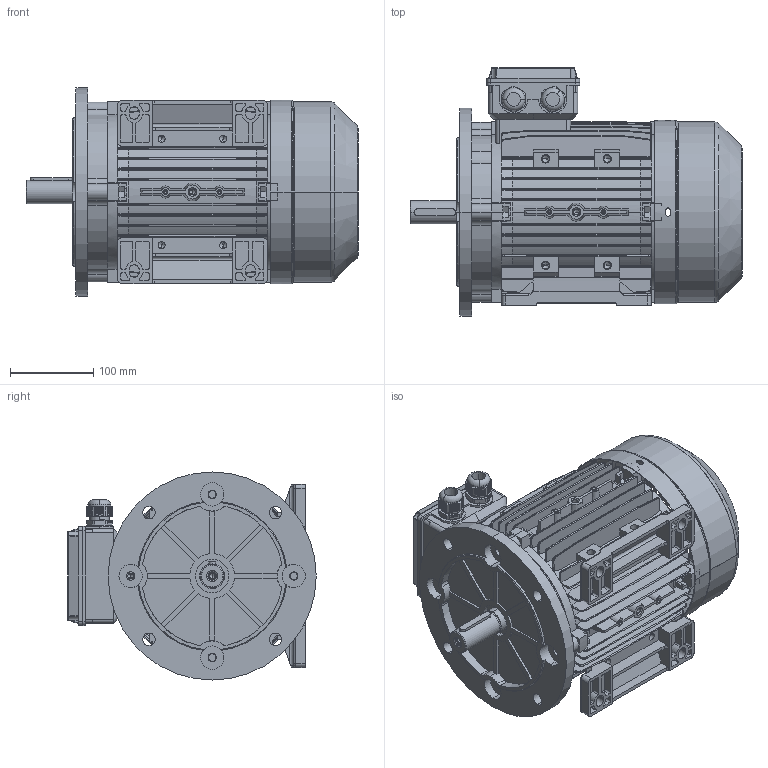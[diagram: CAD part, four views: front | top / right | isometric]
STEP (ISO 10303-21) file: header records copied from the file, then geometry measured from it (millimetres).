
FILE_DESCRIPTION (( 'STEP AP203' ), '1' );
FILE_NAME ('ME112M-4 B35.STEP', '2016-04-29T10:55:37', ( 'PC' ), ( 'Microsoft' ), 'SwSTEP 2.0', 'SolidWorks 2014', '' );
FILE_SCHEMA (( 'CONFIG_CONTROL_DESIGN' ));
Length unit declared in the file: millimetre
Products named in the file (9): M112傷裔B5; M112-Shaft drive end; M112瑞欶_105; MS132諉盄碟釱_2Holes; M112菁褐; M25 cable gland; MS132諉盄碟裔; M112儂褲; ME112M-4 B35
Assembly tree (10 placements, depth 2):
  ME112M-4 B35
    M112儂褲
    M112瑞欶_105
    M25 cable gland  x2
    M112傷裔B5
    MS132諉盄碟釱_2Holes
    MS132諉盄碟裔
    M112-Shaft drive end
    M112菁褐  x2
Bounding box: 399 x 298.5 x 250 mm (x, y, z)
Volume: 2068497 mm3; surface area: 1110452.2 mm2
Topology: 12 solids, 12 shells, 3723 faces, 10028 edges, 6335 vertices
Faces by surface type: plane 1789, cylinder 1101, bspline 452, cone 209, sphere 102, torus 70
Entity records: 122780 total; most frequent: CARTESIAN_POINT 43910, ORIENTED_EDGE 17092, DIRECTION 14965, EDGE_CURVE 8546, VERTEX_POINT 5415, AXIS2_PLACEMENT_3D 5052, LINE 4861, VECTOR 4861
